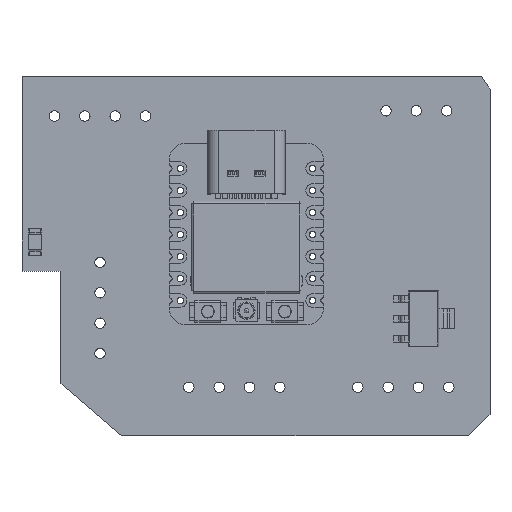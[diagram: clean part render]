
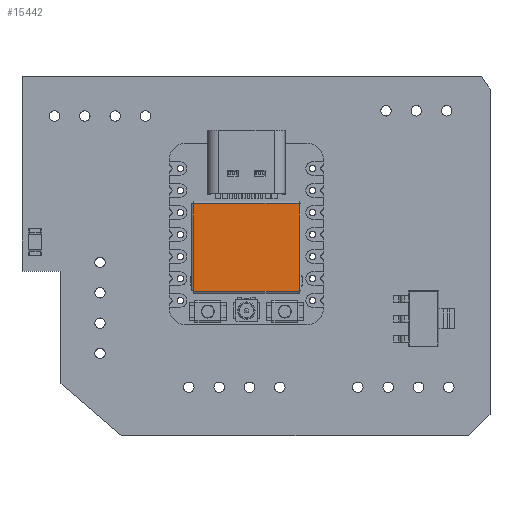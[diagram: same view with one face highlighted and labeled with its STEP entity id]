
A CAD part, top view. The second image highlights one B-rep face of the part: STEP entity #15442.
In plain terms, the highlighted planar face has unit normal (0, 0, 1) as drawn and (0, 1, 0) by its records, which use the part's own axes.
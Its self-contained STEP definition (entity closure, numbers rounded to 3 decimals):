
#14354 = VERTEX_POINT('',#14355);
#14355 = CARTESIAN_POINT('',(5.272,3.,
    -12.211));
#14361 = EDGE_CURVE('',#14354,#14362,#14364,.T.);
#14362 = VERTEX_POINT('',#14363);
#14363 = CARTESIAN_POINT('',(5.372,3.,
    -12.211));
#14364 = LINE('',#14365,#14366);
#14365 = CARTESIAN_POINT('',(-1.462,3.,
    -12.211));
#14366 = VECTOR('',#14367,1.);
#14367 = DIRECTION('',(1.,0.,0.));
#14676 = VERTEX_POINT('',#14677);
#14677 = CARTESIAN_POINT('',(5.272,3.,
    -0.011));
#14910 = VERTEX_POINT('',#14911);
#14911 = CARTESIAN_POINT('',(-4.728,3.,
    -12.211));
#15019 = VERTEX_POINT('',#15020);
#15020 = CARTESIAN_POINT('',(-4.728,3.,
    -0.011));
#15052 = EDGE_CURVE('',#15019,#14676,#15053,.T.);
#15053 = LINE('',#15054,#15055);
#15054 = CARTESIAN_POINT('',(-1.362,3.,
    -0.011));
#15055 = VECTOR('',#15056,1.);
#15056 = DIRECTION('',(1.,0.,0.));
#15069 = VERTEX_POINT('',#15070);
#15070 = CARTESIAN_POINT('',(-4.828,3.,
    -0.011));
#15077 = EDGE_CURVE('',#15069,#15078,#15080,.T.);
#15078 = VERTEX_POINT('',#15079);
#15079 = CARTESIAN_POINT('',(-4.828,3.,
    -12.211));
#15080 = LINE('',#15081,#15082);
#15081 = CARTESIAN_POINT('',(-4.828,3.,
    -9.223));
#15082 = VECTOR('',#15083,1.);
#15083 = DIRECTION('',(0.,0.,-1.));
#15171 = EDGE_CURVE('',#14910,#14354,#15172,.T.);
#15172 = LINE('',#15173,#15174);
#15173 = CARTESIAN_POINT('',(-1.462,3.,
    -12.211));
#15174 = VECTOR('',#15175,1.);
#15175 = DIRECTION('',(1.,0.,0.));
#15241 = VERTEX_POINT('',#15242);
#15242 = CARTESIAN_POINT('',(5.372,3.,
    -0.011));
#15249 = EDGE_CURVE('',#14676,#15241,#15250,.T.);
#15250 = LINE('',#15251,#15252);
#15251 = CARTESIAN_POINT('',(-1.362,3.,
    -0.011));
#15252 = VECTOR('',#15253,1.);
#15253 = DIRECTION('',(1.,0.,0.));
#15309 = EDGE_CURVE('',#15078,#14910,#15310,.T.);
#15310 = LINE('',#15311,#15312);
#15311 = CARTESIAN_POINT('',(-1.462,3.,
    -12.211));
#15312 = VECTOR('',#15313,1.);
#15313 = DIRECTION('',(1.,0.,0.));
#15355 = EDGE_CURVE('',#15069,#15019,#15356,.T.);
#15356 = LINE('',#15357,#15358);
#15357 = CARTESIAN_POINT('',(-1.362,3.,
    -0.011));
#15358 = VECTOR('',#15359,1.);
#15359 = DIRECTION('',(1.,0.,0.));
#15430 = EDGE_CURVE('',#14362,#15241,#15431,.T.);
#15431 = LINE('',#15432,#15433);
#15432 = CARTESIAN_POINT('',(5.372,3.,
    -3.));
#15433 = VECTOR('',#15434,1.);
#15434 = DIRECTION('',(0.,0.,1.));
#15442 = ADVANCED_FACE('',(#15443),#15453,.T.);
#15443 = FACE_BOUND('',#15444,.T.);
#15444 = EDGE_LOOP('',(#15445,#15446,#15447,#15448,#15449,#15450,#15451,
    #15452));
#15445 = ORIENTED_EDGE('',*,*,#15430,.F.);
#15446 = ORIENTED_EDGE('',*,*,#14361,.F.);
#15447 = ORIENTED_EDGE('',*,*,#15171,.F.);
#15448 = ORIENTED_EDGE('',*,*,#15309,.F.);
#15449 = ORIENTED_EDGE('',*,*,#15077,.F.);
#15450 = ORIENTED_EDGE('',*,*,#15355,.T.);
#15451 = ORIENTED_EDGE('',*,*,#15052,.T.);
#15452 = ORIENTED_EDGE('',*,*,#15249,.T.);
#15453 = PLANE('',#15454);
#15454 = AXIS2_PLACEMENT_3D('',#15455,#15456,#15457);
#15455 = CARTESIAN_POINT('',(1.804,3.,
    -6.111));
#15456 = DIRECTION('',(0.,1.,0.));
#15457 = DIRECTION('',(0.,-0.,1.));
